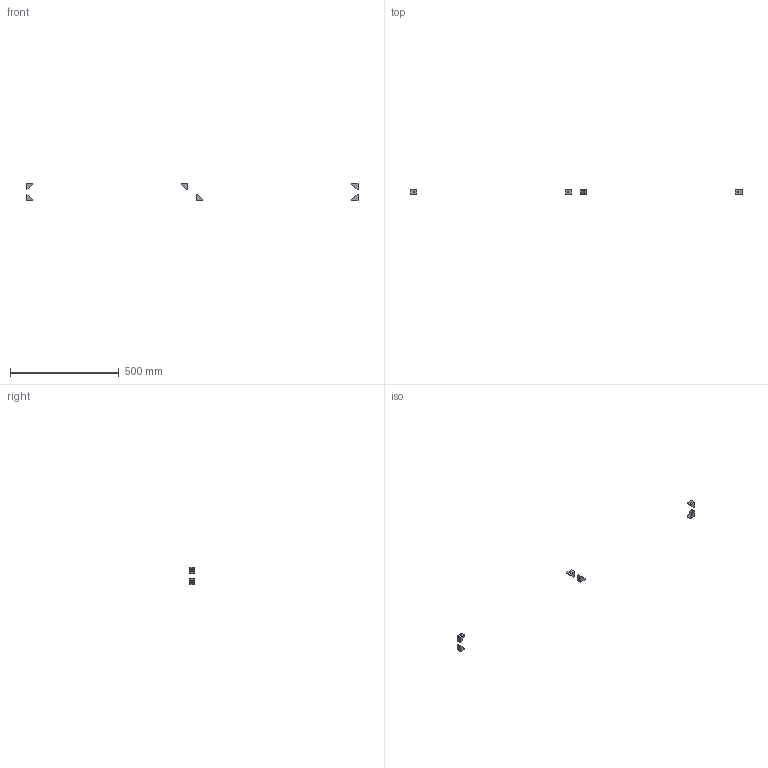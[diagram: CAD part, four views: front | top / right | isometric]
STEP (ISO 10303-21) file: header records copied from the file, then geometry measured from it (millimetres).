
FILE_DESCRIPTION(/* description */ (''),/* implementation_level */ '2;1');
FILE_NAME(/* name */ '4.frame-door#4.3#HBLFSN5',/* time_stamp */ '2014-12-01T20:12:37+01:00',/* author */ (''),/* organization */ (''),/* preprocessor_version */ 'ST-DEVELOPER v14',/* originating_system */ '',/* authorisation */ '');
FILE_SCHEMA (('AUTOMOTIVE_DESIGN'));
Length unit declared in the file: millimetre
Products named in the file (2): Document; angle bracket, single
Assembly tree (4 placements, depth 2):
  Document
    angle bracket, single  x4
Bounding box: 1524 x 20 x 80 mm (x, y, z)
Volume: 38131.9 mm3; surface area: 25316.5 mm2
Topology: 6 solids, 6 shells, 108 faces, 264 edges, 168 vertices
Faces by surface type: plane 72, bspline 36
Entity records: 3856 total; most frequent: CARTESIAN_POINT 1972, B_SPLINE_CURVE_WITH_KNOTS 342, ORIENTED_EDGE 264, PCURVE 264, DEFINITIONAL_REPRESENTATION 264, SURFACE_CURVE 132, EDGE_CURVE 132, VERTEX_POINT 84
